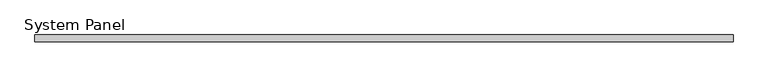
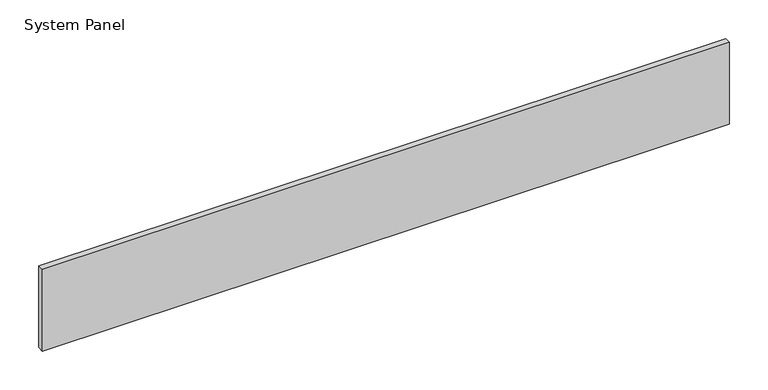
"""IFC4 building model written with IfcOpenShell, lengths in millimetres: plate geometry, System Panel : VACÍO."""

from ifc_helpers import new_model, si_unit, origin, origin_with_axes, place, context, project, spatial, polyline, outline, extrude, source, transform, mapped, element, save


def system_panel_978f9d48(model_context):
    return source(origin(), model_context, "Body", "SweptSolid", [
        extrude(outline(polyline([(513.9968997, -5.0), (-513.9968997, -5.0), (-513.9968997, 5.0), (513.9968997, 5.0), (513.9968997, -5.0)])), origin_with_axes(), (0.0, 0.0, 1.0), 129.4545455),
    ])


if __name__ == "__main__":
    model = new_model("IFC4")
    model_context = context("Model", 3, world=origin())
    ifc_project = project(units=[si_unit("LENGTHUNIT", "METRE", prefix="MILLI")], contexts=[model_context])
    site = spatial("IfcSite", under=ifc_project)
    building = spatial("IfcBuilding", under=site)
    placement = place(None, origin())
    system_panel_shape = system_panel_978f9d48(model_context)
    element("IfcPlate", 1, ObjectType="System Panel : VACÍO", at=placement, inside=building, context=model_context, shape_type="MappedRepresentation", body=[
        mapped(system_panel_shape, transform((0.0, 0.0, 0.0), x_axis=(1.0, 0.0, 0.0), y_axis=(0.0, 1.0, 0.0), z_axis=(0.0, 0.0, 1.0))),
    ])
    save(model, "model.ifc")
